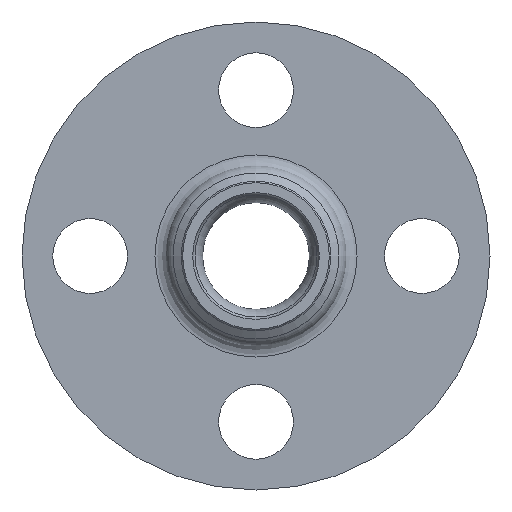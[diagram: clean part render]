
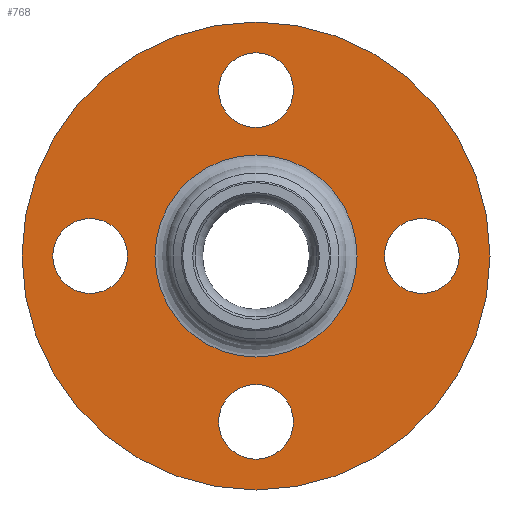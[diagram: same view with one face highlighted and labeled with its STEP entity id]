
A CAD part, left-side view. The second image highlights one B-rep face of the part: STEP entity #768.
In plain terms, the highlighted planar face has unit normal (-1, 0, 0).
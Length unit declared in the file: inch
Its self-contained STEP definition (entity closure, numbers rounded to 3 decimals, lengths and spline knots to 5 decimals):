
#49=FACE_BOUND('',#118,.T.);
#50=FACE_BOUND('',#119,.T.);
#51=FACE_BOUND('',#120,.T.);
#52=FACE_BOUND('',#121,.T.);
#53=FACE_BOUND('',#122,.T.);
#62=PLANE('',#838);
#84=FACE_OUTER_BOUND('',#117,.T.);
#117=EDGE_LOOP('',(#514,#515));
#118=EDGE_LOOP('',(#516));
#119=EDGE_LOOP('',(#517));
#120=EDGE_LOOP('',(#518));
#121=EDGE_LOOP('',(#519));
#122=EDGE_LOOP('',(#520,#521));
#192=CIRCLE('',#819,0.31);
#195=CIRCLE('',#823,0.31);
#198=CIRCLE('',#827,0.31);
#201=CIRCLE('',#831,0.31);
#204=CIRCLE('',#835,0.83785);
#205=CIRCLE('',#836,0.83785);
#207=CIRCLE('',#839,1.94);
#208=CIRCLE('',#840,1.94);
#290=VERTEX_POINT('',#1272);
#293=VERTEX_POINT('',#1280);
#296=VERTEX_POINT('',#1288);
#299=VERTEX_POINT('',#1296);
#302=VERTEX_POINT('',#1303);
#303=VERTEX_POINT('',#1305);
#304=VERTEX_POINT('',#1310);
#305=VERTEX_POINT('',#1311);
#377=EDGE_CURVE('',#290,#290,#192,.T.);
#381=EDGE_CURVE('',#293,#293,#195,.T.);
#385=EDGE_CURVE('',#296,#296,#198,.T.);
#389=EDGE_CURVE('',#299,#299,#201,.T.);
#392=EDGE_CURVE('',#302,#303,#204,.T.);
#393=EDGE_CURVE('',#303,#302,#205,.T.);
#395=EDGE_CURVE('',#304,#305,#207,.T.);
#396=EDGE_CURVE('',#305,#304,#208,.T.);
#514=ORIENTED_EDGE('',*,*,#395,.F.);
#515=ORIENTED_EDGE('',*,*,#396,.F.);
#516=ORIENTED_EDGE('',*,*,#377,.T.);
#517=ORIENTED_EDGE('',*,*,#381,.T.);
#518=ORIENTED_EDGE('',*,*,#385,.T.);
#519=ORIENTED_EDGE('',*,*,#389,.T.);
#520=ORIENTED_EDGE('',*,*,#393,.F.);
#521=ORIENTED_EDGE('',*,*,#392,.F.);
#768=ADVANCED_FACE('',(#84,#49,#50,#51,#52,#53),#62,.T.);
#819=AXIS2_PLACEMENT_3D('',#1274,#969,#970);
#823=AXIS2_PLACEMENT_3D('',#1282,#978,#979);
#827=AXIS2_PLACEMENT_3D('',#1290,#987,#988);
#831=AXIS2_PLACEMENT_3D('',#1298,#996,#997);
#835=AXIS2_PLACEMENT_3D('',#1306,#1004,#1005);
#836=AXIS2_PLACEMENT_3D('',#1307,#1006,#1007);
#838=AXIS2_PLACEMENT_3D('',#1309,#1010,#1011);
#839=AXIS2_PLACEMENT_3D('',#1312,#1012,#1013);
#840=AXIS2_PLACEMENT_3D('',#1313,#1014,#1015);
#969=DIRECTION('center_axis',(1.,0.,0.));
#970=DIRECTION('ref_axis',(0.,-1.,0.));
#978=DIRECTION('center_axis',(1.,0.,0.));
#979=DIRECTION('ref_axis',(0.,0.,1.));
#987=DIRECTION('center_axis',(1.,0.,0.));
#988=DIRECTION('ref_axis',(0.,1.,0.));
#996=DIRECTION('center_axis',(1.,0.,0.));
#997=DIRECTION('ref_axis',(0.,0.,-1.));
#1004=DIRECTION('center_axis',(-1.,0.,0.));
#1005=DIRECTION('ref_axis',(0.,-1.,0.));
#1006=DIRECTION('center_axis',(-1.,0.,0.));
#1007=DIRECTION('ref_axis',(0.,-1.,0.));
#1010=DIRECTION('center_axis',(-1.,0.,0.));
#1011=DIRECTION('ref_axis',(0.,0.,1.));
#1012=DIRECTION('center_axis',(1.,0.,0.));
#1013=DIRECTION('ref_axis',(0.,1.,0.));
#1014=DIRECTION('center_axis',(1.,0.,0.));
#1015=DIRECTION('ref_axis',(0.,1.,0.));
#1272=CARTESIAN_POINT('',(1.145,0.31,-1.375));
#1274=CARTESIAN_POINT('Origin',(1.145,0.,-1.375));
#1280=CARTESIAN_POINT('',(1.145,-1.375,-0.31));
#1282=CARTESIAN_POINT('Origin',(1.145,-1.375,0.));
#1288=CARTESIAN_POINT('',(1.145,-0.31,1.375));
#1290=CARTESIAN_POINT('Origin',(1.145,0.,1.375));
#1296=CARTESIAN_POINT('',(1.145,1.375,0.31));
#1298=CARTESIAN_POINT('Origin',(1.145,1.375,0.));
#1303=CARTESIAN_POINT('',(1.145,0.,0.83785));
#1305=CARTESIAN_POINT('',(1.145,0.83785,0.));
#1306=CARTESIAN_POINT('Origin',(1.145,0.,0.));
#1307=CARTESIAN_POINT('Origin',(1.145,0.,0.));
#1309=CARTESIAN_POINT('Origin',(1.145,1.345,0.));
#1310=CARTESIAN_POINT('',(1.145,1.94,0.));
#1311=CARTESIAN_POINT('',(1.145,-1.94,0.));
#1312=CARTESIAN_POINT('Origin',(1.145,0.,0.));
#1313=CARTESIAN_POINT('Origin',(1.145,0.,0.));
